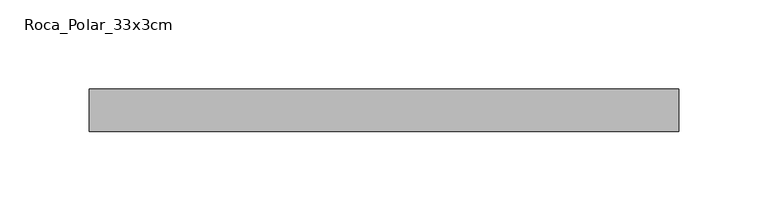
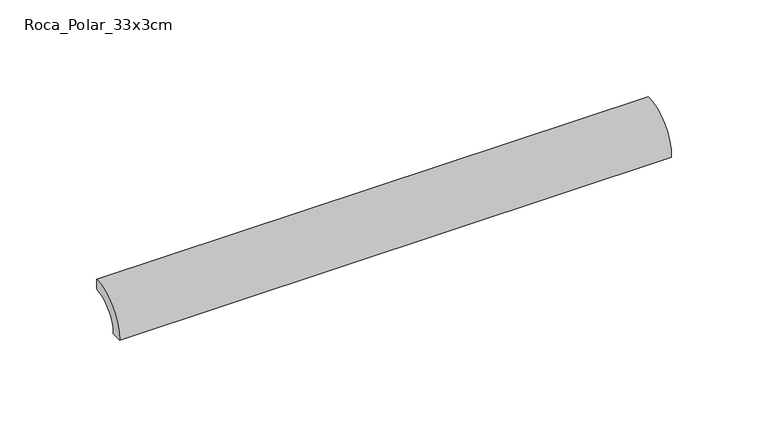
"""IFC4 building model written with IfcOpenShell, lengths in millimetres: proxy geometry, EXAGRES - Piscina Arista : Roca_Polar_33x3cm."""

from ifc_helpers import new_model, si_unit, point, frame, frame_2d, origin, place, context, project, spatial, polyline, circle_curve, trimmed, segment, composite_curve, outline, extrude, source, transform, mapped, element, save


def roca_polar_33x3cm_504bcb03(model_context):
    return source(origin(), model_context, "Body", "SweptSolid", [
        extrude(outline(composite_curve([segment(trimmed(circle_curve(frame_2d((23.9, -23.9)), 23.9), [point((0.0, -23.9))], [point((23.9, 0.0))], False, "CARTESIAN"), True, "CONTINUOUS"), segment(polyline([(23.9, 0.0), (23.9, -6.4)]), True, "CONTINUOUS"), segment(trimmed(circle_curve(frame_2d((23.9, -23.9)), 17.5), [point((23.9, -6.4))], [point((6.4, -23.9))], True, "CARTESIAN"), True, "CONTINUOUS"), segment(polyline([(6.4, -23.9), (0.0, -23.9)]), True, "CONTINUOUS")], self_intersect=False)), frame((0.0, 0.0, 0.0), z_axis=(1.0, 0.0, 0.0), x_axis=(0.0, 1.0, 0.0)), (0.0, 0.0, 1.0), 330.0),
    ])


if __name__ == "__main__":
    model = new_model("IFC4")
    model_context = context("Model", 3, world=origin())
    ifc_project = project(units=[si_unit("LENGTHUNIT", "METRE", prefix="MILLI")], contexts=[model_context])
    site = spatial("IfcSite", under=ifc_project)
    building = spatial("IfcBuilding", under=site)
    placement = place(None, origin())
    roca_polar_33x3cm_shape = roca_polar_33x3cm_504bcb03(model_context)
    element("IfcBuildingElementProxy", 1, Name="EXAGRES - Piscina Arista : Roca_Polar_33x3cm", ObjectType="EXAGRES - Piscina Arista : Roca_Polar_33x3cm", at=placement, inside=building, context=model_context, shape_type="MappedRepresentation", body=[
        mapped(roca_polar_33x3cm_shape, transform((0.0, 0.0, 0.0), x_axis=(1.0, 0.0, 0.0), y_axis=(0.0, 1.0, 0.0), z_axis=(0.0, 0.0, 1.0))),
    ])
    save(model, "model.ifc")
